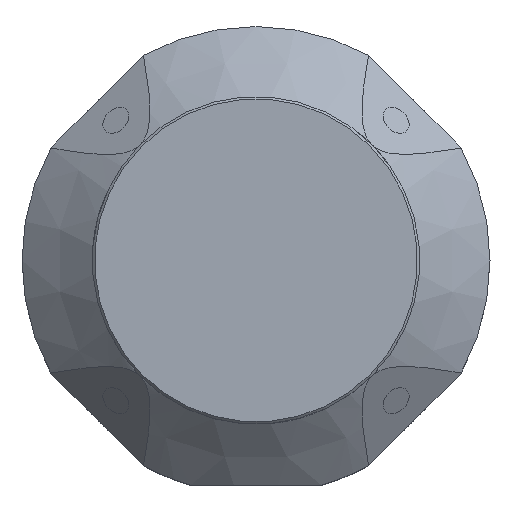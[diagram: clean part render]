
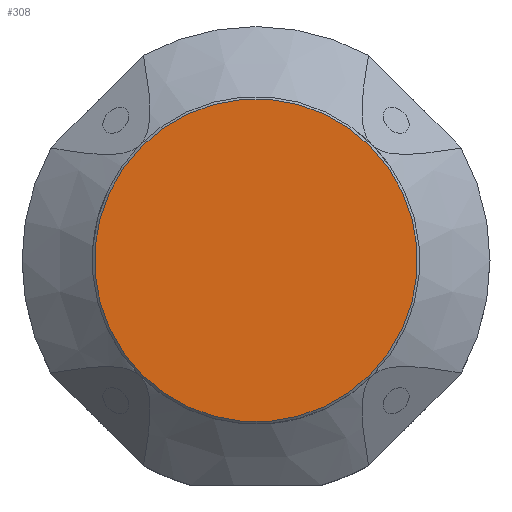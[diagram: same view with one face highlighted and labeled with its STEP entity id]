
A CAD part, top view. The second image highlights one B-rep face of the part: STEP entity #308.
In plain terms, the highlighted planar face has unit normal (0, 0, 1).
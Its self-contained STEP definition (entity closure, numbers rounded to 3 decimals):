
#308=ADVANCED_FACE('',(#367),#336,.T.);
#336=PLANE('',#806);
#367=FACE_OUTER_BOUND('',#431,.T.);
#431=EDGE_LOOP('',(#575));
#575=ORIENTED_EDGE('',*,*,#693,.T.);
#621=VERTEX_POINT('',#1373);
#693=EDGE_CURVE('',#621,#621,#726,.T.);
#726=CIRCLE('',#804,34.5);
#804=AXIS2_PLACEMENT_3D('',#1372,#979,#980);
#806=AXIS2_PLACEMENT_3D('',#1375,#983,#984);
#979=DIRECTION('',(0.,0.,1.));
#980=DIRECTION('',(0.707,-0.707,0.));
#983=DIRECTION('',(0.,0.,1.));
#984=DIRECTION('',(0.707,-0.707,0.));
#1372=CARTESIAN_POINT('',(0.,0.,68.));
#1373=CARTESIAN_POINT('',(24.395,-24.395,68.));
#1375=CARTESIAN_POINT('',(-22.981,22.981,68.));
